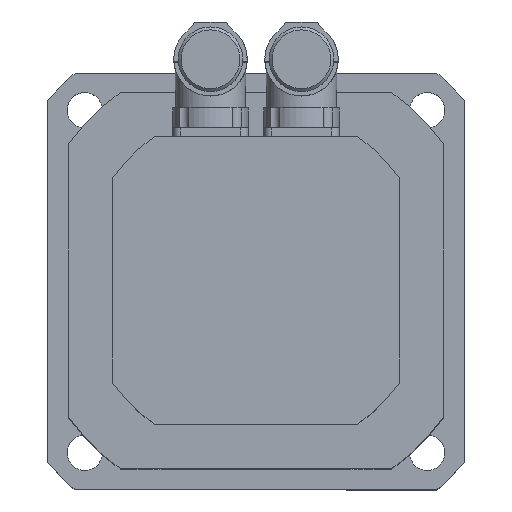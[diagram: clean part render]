
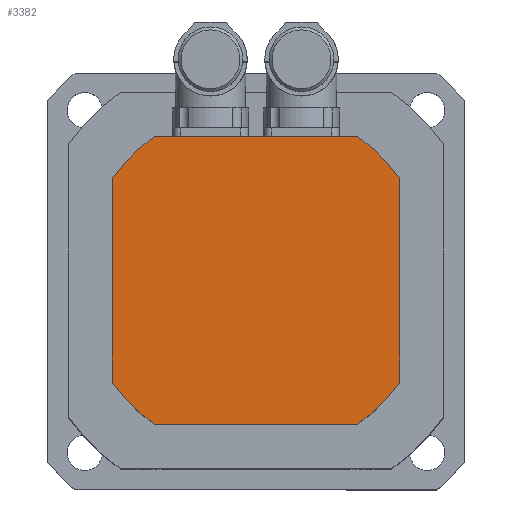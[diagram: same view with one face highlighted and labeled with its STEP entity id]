
A CAD part, top view. The second image highlights one B-rep face of the part: STEP entity #3382.
In plain terms, the highlighted planar face has unit normal (0, 0, 1).
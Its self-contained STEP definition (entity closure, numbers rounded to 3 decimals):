
#729=PLANE('',#3608);
#819=CIRCLE('',#3601,60.);
#820=CIRCLE('',#3603,60.);
#821=CIRCLE('',#3605,60.);
#822=CIRCLE('',#3607,60.);
#1064=VECTOR('',#4158,1.);
#1067=VECTOR('',#4162,1.);
#1070=VECTOR('',#4180,1.);
#1073=VECTOR('',#4184,1.);
#1291=LINE('',#5311,#1064);
#1294=LINE('',#5317,#1067);
#1297=LINE('',#5335,#1070);
#1300=LINE('',#5341,#1073);
#1517=VERTEX_POINT('',#5310);
#1518=VERTEX_POINT('',#5312);
#1519=VERTEX_POINT('',#5316);
#1520=VERTEX_POINT('',#5318);
#1525=VERTEX_POINT('',#5334);
#1526=VERTEX_POINT('',#5336);
#1527=VERTEX_POINT('',#5340);
#1528=VERTEX_POINT('',#5342);
#1887=EDGE_CURVE('',#1518,#1517,#1291,.T.);
#1890=EDGE_CURVE('',#1520,#1519,#1294,.T.);
#1897=EDGE_CURVE('',#1526,#1525,#1297,.T.);
#1900=EDGE_CURVE('',#1528,#1527,#1300,.T.);
#1902=EDGE_CURVE('',#1520,#1527,#819,.T.);
#1903=EDGE_CURVE('',#1526,#1519,#820,.T.);
#1904=EDGE_CURVE('',#1518,#1525,#821,.T.);
#1905=EDGE_CURVE('',#1528,#1517,#822,.T.);
#2547=ORIENTED_EDGE('',*,*,#1887,.T.);
#2548=ORIENTED_EDGE('',*,*,#1905,.F.);
#2549=ORIENTED_EDGE('',*,*,#1900,.T.);
#2550=ORIENTED_EDGE('',*,*,#1902,.F.);
#2551=ORIENTED_EDGE('',*,*,#1890,.T.);
#2552=ORIENTED_EDGE('',*,*,#1903,.F.);
#2553=ORIENTED_EDGE('',*,*,#1897,.T.);
#2554=ORIENTED_EDGE('',*,*,#1904,.F.);
#2974=EDGE_LOOP('',(#2547,#2548,#2549,#2550,#2551,#2552,#2553,#2554));
#3192=FACE_BOUND('',#2974,.T.);
#3382=ADVANCED_FACE('',(#3192),#729,.F.);
#3601=AXIS2_PLACEMENT_3D('',#5345,#4188,#4189);
#3603=AXIS2_PLACEMENT_3D('',#5347,#4192,#4193);
#3605=AXIS2_PLACEMENT_3D('',#5349,#4196,#4197);
#3607=AXIS2_PLACEMENT_3D('',#5351,#4200,#4201);
#3608=AXIS2_PLACEMENT_3D('',#5352,#4202,$);
#4158=DIRECTION('',(0.,-1.,0.));
#4162=DIRECTION('',(0.,1.,0.));
#4180=DIRECTION('',(-1.,0.,0.));
#4184=DIRECTION('',(1.,0.,0.));
#4188=DIRECTION('',(0.,0.,-1.));
#4189=DIRECTION('',(-60.,0.,0.));
#4192=DIRECTION('',(0.,0.,-1.));
#4193=DIRECTION('',(-60.,0.,0.));
#4196=DIRECTION('',(0.,0.,-1.));
#4197=DIRECTION('',(-60.,0.,0.));
#4200=DIRECTION('',(0.,0.,-1.));
#4201=DIRECTION('',(-60.,0.,0.));
#4202=DIRECTION('',(0.,0.,-1.));
#5310=CARTESIAN_POINT('',(-49.,-34.627,45.));
#5311=CARTESIAN_POINT('',(-49.,34.627,45.));
#5312=CARTESIAN_POINT('',(-49.,34.627,45.));
#5316=CARTESIAN_POINT('',(49.,34.627,45.));
#5317=CARTESIAN_POINT('',(49.,-34.627,45.));
#5318=CARTESIAN_POINT('',(49.,-34.627,45.));
#5334=CARTESIAN_POINT('',(-34.627,49.,45.));
#5335=CARTESIAN_POINT('',(34.627,49.,45.));
#5336=CARTESIAN_POINT('',(34.627,49.,45.));
#5340=CARTESIAN_POINT('',(34.627,-49.,45.));
#5341=CARTESIAN_POINT('',(-34.627,-49.,45.));
#5342=CARTESIAN_POINT('',(-34.627,-49.,45.));
#5345=CARTESIAN_POINT('',(0.,0.,45.));
#5347=CARTESIAN_POINT('',(0.,0.,45.));
#5349=CARTESIAN_POINT('',(0.,0.,45.));
#5351=CARTESIAN_POINT('',(0.,0.,45.));
#5352=CARTESIAN_POINT('',(0.,0.,45.));
